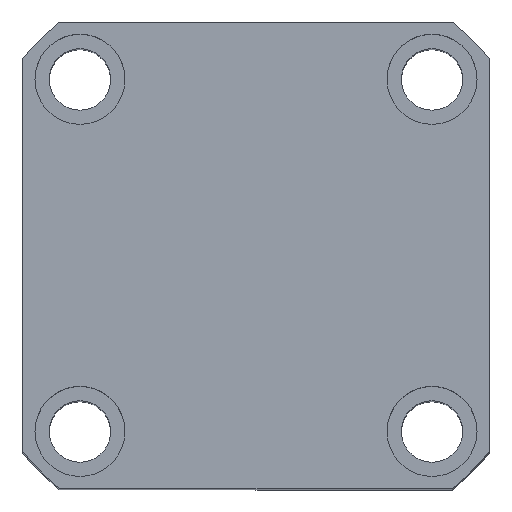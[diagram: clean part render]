
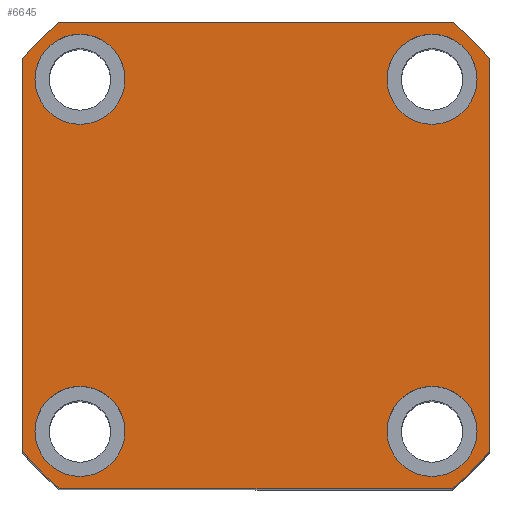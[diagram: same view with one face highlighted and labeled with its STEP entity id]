
A CAD part, top view. The second image highlights one B-rep face of the part: STEP entity #6645.
In plain terms, the highlighted planar face has unit normal (0, 0, 1) as drawn and (0, 0, -1) by its records, which use the part's own axes.
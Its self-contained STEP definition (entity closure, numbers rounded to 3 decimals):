
#82 = AXIS2_PLACEMENT_3D ( 'NONE', #8480, #19592, #10106 ) ;
#375 = AXIS2_PLACEMENT_3D ( 'NONE', #13501, #4029, #15078 ) ;
#552 = ORIENTED_EDGE ( 'NONE', *, *, #8186, .F. ) ;
#684 = VECTOR ( 'NONE', #6091, 1000. ) ;
#821 = DIRECTION ( 'NONE',  ( 1., 0., 0. ) ) ;
#907 = CARTESIAN_POINT ( 'NONE',  ( -57., 57., 0. ) ) ;
#957 = CARTESIAN_POINT ( 'NONE',  ( 0., 0., 0. ) ) ;
#1068 = DIRECTION ( 'NONE',  ( -1., 0., 0. ) ) ;
#1519 = AXIS2_PLACEMENT_3D ( 'NONE', #15318, #5835, #16909 ) ;
#1568 = DIRECTION ( 'NONE',  ( 0., 0., -1. ) ) ;
#1749 = AXIS2_PLACEMENT_3D ( 'NONE', #17973, #8483, #19595 ) ;
#1885 = FACE_BOUND ( 'NONE', #4850, .T. ) ;
#1909 = AXIS2_PLACEMENT_3D ( 'NONE', #6459, #14619, #11580 ) ;
#1912 = EDGE_CURVE ( 'NONE', #17000, #5357, #7819, .T. ) ;
#2191 = ORIENTED_EDGE ( 'NONE', *, *, #9310, .F. ) ;
#2365 = EDGE_CURVE ( 'NONE', #6339, #7086, #4879, .T. ) ;
#2519 = DIRECTION ( 'NONE',  ( 1., 0., 0. ) ) ;
#2700 = VERTEX_POINT ( 'NONE', #15030 ) ;
#2981 = DIRECTION ( 'NONE',  ( 1., 0., 0. ) ) ;
#3017 = ORIENTED_EDGE ( 'NONE', *, *, #12907, .F. ) ;
#3043 = EDGE_CURVE ( 'NONE', #16704, #11073, #14008, .T. ) ;
#3246 = EDGE_CURVE ( 'NONE', #11205, #20340, #18990, .T. ) ;
#3347 = PLANE ( 'NONE',  #18314 ) ;
#3423 = VERTEX_POINT ( 'NONE', #14818 ) ;
#3640 = EDGE_LOOP ( 'NONE', ( #3017, #4929, #8109, #8213, #12390, #8331, #2191, #7111 ) ) ;
#4021 = DIRECTION ( 'NONE',  ( 0., 1., 0. ) ) ;
#4029 = DIRECTION ( 'NONE',  ( 0., 0., 1. ) ) ;
#4379 = CARTESIAN_POINT ( 'NONE',  ( 47.971, -57., 0. ) ) ;
#4523 = CARTESIAN_POINT ( 'NONE',  ( -57., 57., 0. ) ) ;
#4616 = VERTEX_POINT ( 'NONE', #9847 ) ;
#4766 = VECTOR ( 'NONE', #15094, 1000. ) ;
#4799 = CARTESIAN_POINT ( 'NONE',  ( -47.971, -57., 0. ) ) ;
#4850 = EDGE_LOOP ( 'NONE', ( #20027, #9906 ) ) ;
#4879 = LINE ( 'NONE', #4523, #684 ) ;
#4910 = AXIS2_PLACEMENT_3D ( 'NONE', #11014, #1568, #12614 ) ;
#4929 = ORIENTED_EDGE ( 'NONE', *, *, #3246, .F. ) ;
#5024 = CIRCLE ( 'NONE', #17870, 74.5 ) ;
#5150 = CARTESIAN_POINT ( 'NONE',  ( 57., 57., 0. ) ) ;
#5266 = CARTESIAN_POINT ( 'NONE',  ( -54., 43., 0. ) ) ;
#5357 = VERTEX_POINT ( 'NONE', #5266 ) ;
#5409 = EDGE_CURVE ( 'NONE', #3423, #13850, #19207, .T. ) ;
#5426 = CARTESIAN_POINT ( 'NONE',  ( -57., 47.971, 0. ) ) ;
#5513 = CIRCLE ( 'NONE', #19817, 74.5 ) ;
#5804 = EDGE_CURVE ( 'NONE', #9781, #4616, #12003, .T. ) ;
#5835 = DIRECTION ( 'NONE',  ( 0., 0., -1. ) ) ;
#6064 = CARTESIAN_POINT ( 'NONE',  ( 43., -43., 0. ) ) ;
#6091 = DIRECTION ( 'NONE',  ( 0., -1., 0. ) ) ;
#6093 = VERTEX_POINT ( 'NONE', #16167 ) ;
#6339 = VERTEX_POINT ( 'NONE', #5426 ) ;
#6424 = CARTESIAN_POINT ( 'NONE',  ( 0., 0., 0. ) ) ;
#6459 = CARTESIAN_POINT ( 'NONE',  ( -43., 43., 0. ) ) ;
#6645 = ADVANCED_FACE ( 'NONE', ( #14476, #13972, #1885, #18168, #9775 ), #3347, .F. ) ;
#6865 = AXIS2_PLACEMENT_3D ( 'NONE', #7640, #18734, #9254 ) ;
#7086 = VERTEX_POINT ( 'NONE', #16911 ) ;
#7111 = ORIENTED_EDGE ( 'NONE', *, *, #9936, .F. ) ;
#7597 = CARTESIAN_POINT ( 'NONE',  ( 43., -43., 0. ) ) ;
#7640 = CARTESIAN_POINT ( 'NONE',  ( 0., 0., 0. ) ) ;
#7649 = DIRECTION ( 'NONE',  ( -1., 0., 0. ) ) ;
#7819 = CIRCLE ( 'NONE', #1909, 11. ) ;
#7914 = CARTESIAN_POINT ( 'NONE',  ( 54., 43., 0. ) ) ;
#7927 = EDGE_CURVE ( 'NONE', #16046, #17612, #12963, .T. ) ;
#8074 = DIRECTION ( 'NONE',  ( 1., 0., 0. ) ) ;
#8109 = ORIENTED_EDGE ( 'NONE', *, *, #9247, .F. ) ;
#8110 = AXIS2_PLACEMENT_3D ( 'NONE', #6064, #17140, #7649 ) ;
#8186 = EDGE_CURVE ( 'NONE', #13850, #3423, #19877, .T. ) ;
#8205 = CIRCLE ( 'NONE', #6865, 74.5 ) ;
#8213 = ORIENTED_EDGE ( 'NONE', *, *, #3043, .F. ) ;
#8331 = ORIENTED_EDGE ( 'NONE', *, *, #2365, .F. ) ;
#8389 = CARTESIAN_POINT ( 'NONE',  ( 32., -43., 0. ) ) ;
#8480 = CARTESIAN_POINT ( 'NONE',  ( -43., -43., 0. ) ) ;
#8483 = DIRECTION ( 'NONE',  ( 0., 0., -1. ) ) ;
#9206 = DIRECTION ( 'NONE',  ( -1., 0., 0. ) ) ;
#9247 = EDGE_CURVE ( 'NONE', #11073, #11205, #5024, .T. ) ;
#9254 = DIRECTION ( 'NONE',  ( 1., 0., 0. ) ) ;
#9310 = EDGE_CURVE ( 'NONE', #2700, #6339, #8205, .T. ) ;
#9459 = ORIENTED_EDGE ( 'NONE', *, *, #1912, .F. ) ;
#9684 = CIRCLE ( 'NONE', #16735, 11. ) ;
#9775 = FACE_OUTER_BOUND ( 'NONE', #3640, .T. ) ;
#9781 = VERTEX_POINT ( 'NONE', #8389 ) ;
#9847 = CARTESIAN_POINT ( 'NONE',  ( 54., -43., 0. ) ) ;
#9906 = ORIENTED_EDGE ( 'NONE', *, *, #7927, .F. ) ;
#9936 = EDGE_CURVE ( 'NONE', #6093, #2700, #17366, .T. ) ;
#10062 = VECTOR ( 'NONE', #4021, 1000. ) ;
#10106 = DIRECTION ( 'NONE',  ( -1., 0., 0. ) ) ;
#10263 = DIRECTION ( 'NONE',  ( 0., 0., 1. ) ) ;
#10508 = DIRECTION ( 'NONE',  ( 0., 0., -1. ) ) ;
#10777 = EDGE_CURVE ( 'NONE', #4616, #9781, #10937, .T. ) ;
#10937 = CIRCLE ( 'NONE', #16190, 11. ) ;
#10938 = ORIENTED_EDGE ( 'NONE', *, *, #10777, .F. ) ;
#11014 = CARTESIAN_POINT ( 'NONE',  ( -43., -43., 0. ) ) ;
#11073 = VERTEX_POINT ( 'NONE', #4379 ) ;
#11205 = VERTEX_POINT ( 'NONE', #20421 ) ;
#11282 = CARTESIAN_POINT ( 'NONE',  ( -32., -43., 0. ) ) ;
#11580 = DIRECTION ( 'NONE',  ( -1., 0., 0. ) ) ;
#11789 = EDGE_CURVE ( 'NONE', #17612, #16046, #9684, .T. ) ;
#11986 = DIRECTION ( 'NONE',  ( 0., 0., 1. ) ) ;
#12003 = CIRCLE ( 'NONE', #8110, 11. ) ;
#12390 = ORIENTED_EDGE ( 'NONE', *, *, #12967, .F. ) ;
#12614 = DIRECTION ( 'NONE',  ( -1., 0., 0. ) ) ;
#12781 = CARTESIAN_POINT ( 'NONE',  ( -32., 43., 0. ) ) ;
#12907 = EDGE_CURVE ( 'NONE', #20340, #6093, #17665, .T. ) ;
#12918 = CARTESIAN_POINT ( 'NONE',  ( -57., -57., 0. ) ) ;
#12963 = CIRCLE ( 'NONE', #1749, 11. ) ;
#12967 = EDGE_CURVE ( 'NONE', #7086, #16704, #5513, .T. ) ;
#13112 = CARTESIAN_POINT ( 'NONE',  ( 57., 47.971, 0. ) ) ;
#13501 = CARTESIAN_POINT ( 'NONE',  ( 0., 0., 0. ) ) ;
#13503 = VECTOR ( 'NONE', #2981, 1000. ) ;
#13850 = VERTEX_POINT ( 'NONE', #11282 ) ;
#13972 = FACE_BOUND ( 'NONE', #19450, .T. ) ;
#14008 = LINE ( 'NONE', #12918, #13503 ) ;
#14476 = FACE_BOUND ( 'NONE', #16896, .T. ) ;
#14619 = DIRECTION ( 'NONE',  ( 0., 0., -1. ) ) ;
#14818 = CARTESIAN_POINT ( 'NONE',  ( -54., -43., 0. ) ) ;
#14830 = ORIENTED_EDGE ( 'NONE', *, *, #5409, .F. ) ;
#15030 = CARTESIAN_POINT ( 'NONE',  ( -47.971, 57., 0. ) ) ;
#15078 = DIRECTION ( 'NONE',  ( 1., 0., 0. ) ) ;
#15094 = DIRECTION ( 'NONE',  ( -1., 0., 0. ) ) ;
#15318 = CARTESIAN_POINT ( 'NONE',  ( -43., 43., 0. ) ) ;
#15986 = CIRCLE ( 'NONE', #1519, 11. ) ;
#16046 = VERTEX_POINT ( 'NONE', #7914 ) ;
#16167 = CARTESIAN_POINT ( 'NONE',  ( 47.971, 57., 0. ) ) ;
#16190 = AXIS2_PLACEMENT_3D ( 'NONE', #7597, #18679, #9206 ) ;
#16704 = VERTEX_POINT ( 'NONE', #4799 ) ;
#16735 = AXIS2_PLACEMENT_3D ( 'NONE', #19999, #10508, #1068 ) ;
#16896 = EDGE_LOOP ( 'NONE', ( #14830, #552 ) ) ;
#16909 = DIRECTION ( 'NONE',  ( -1., 0., 0. ) ) ;
#16911 = CARTESIAN_POINT ( 'NONE',  ( -57., -47.971, 0. ) ) ;
#17000 = VERTEX_POINT ( 'NONE', #12781 ) ;
#17140 = DIRECTION ( 'NONE',  ( 0., 0., -1. ) ) ;
#17366 = LINE ( 'NONE', #907, #4766 ) ;
#17562 = DIRECTION ( 'NONE',  ( 0., 0., 1. ) ) ;
#17612 = VERTEX_POINT ( 'NONE', #18485 ) ;
#17665 = CIRCLE ( 'NONE', #375, 74.5 ) ;
#17870 = AXIS2_PLACEMENT_3D ( 'NONE', #19743, #10263, #821 ) ;
#17973 = CARTESIAN_POINT ( 'NONE',  ( 43., 43., 0. ) ) ;
#18001 = ORIENTED_EDGE ( 'NONE', *, *, #19798, .F. ) ;
#18168 = FACE_BOUND ( 'NONE', #19013, .T. ) ;
#18314 = AXIS2_PLACEMENT_3D ( 'NONE', #6424, #17562, #8074 ) ;
#18485 = CARTESIAN_POINT ( 'NONE',  ( 32., 43., 0. ) ) ;
#18679 = DIRECTION ( 'NONE',  ( 0., 0., -1. ) ) ;
#18734 = DIRECTION ( 'NONE',  ( 0., 0., 1. ) ) ;
#18990 = LINE ( 'NONE', #5150, #10062 ) ;
#19013 = EDGE_LOOP ( 'NONE', ( #18001, #9459 ) ) ;
#19207 = CIRCLE ( 'NONE', #82, 11. ) ;
#19450 = EDGE_LOOP ( 'NONE', ( #20089, #10938 ) ) ;
#19592 = DIRECTION ( 'NONE',  ( 0., 0., -1. ) ) ;
#19595 = DIRECTION ( 'NONE',  ( -1., 0., 0. ) ) ;
#19743 = CARTESIAN_POINT ( 'NONE',  ( 0., 0., 0. ) ) ;
#19798 = EDGE_CURVE ( 'NONE', #5357, #17000, #15986, .T. ) ;
#19817 = AXIS2_PLACEMENT_3D ( 'NONE', #957, #11986, #2519 ) ;
#19877 = CIRCLE ( 'NONE', #4910, 11. ) ;
#19999 = CARTESIAN_POINT ( 'NONE',  ( 43., 43., 0. ) ) ;
#20027 = ORIENTED_EDGE ( 'NONE', *, *, #11789, .F. ) ;
#20089 = ORIENTED_EDGE ( 'NONE', *, *, #5804, .F. ) ;
#20340 = VERTEX_POINT ( 'NONE', #13112 ) ;
#20421 = CARTESIAN_POINT ( 'NONE',  ( 57., -47.971, 0. ) ) ;
